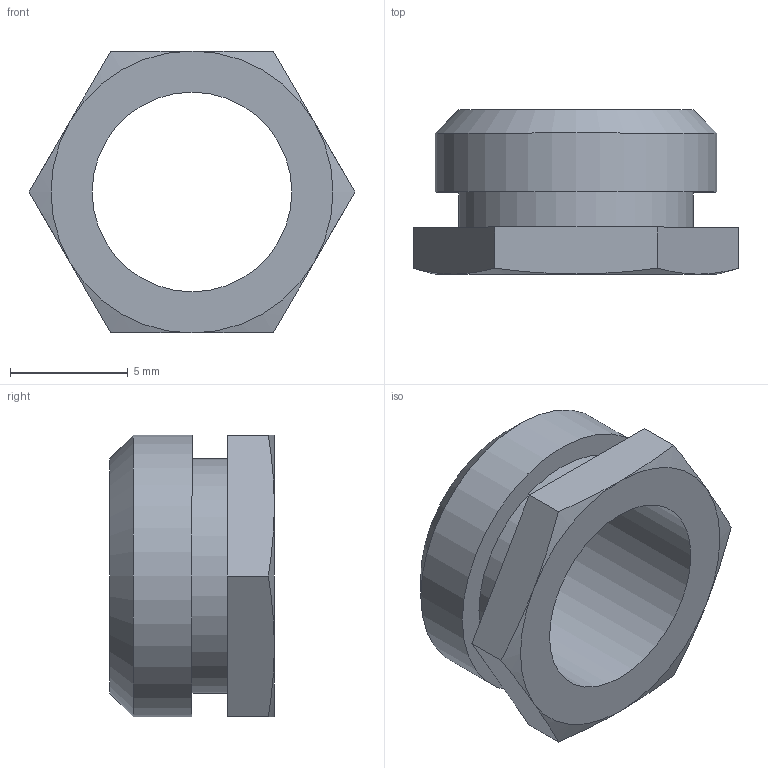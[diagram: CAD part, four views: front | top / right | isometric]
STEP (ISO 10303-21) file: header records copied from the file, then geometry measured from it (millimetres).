
FILE_DESCRIPTION(('STEP AP203'), '1');
FILE_NAME('Âòóëêà íàæèìíàÿ _ À.005', '', ('UNSPECIFIED'), ('UNSPECIFIED'), 'C3D Converter', 'C3D Toolkit', '');
FILE_SCHEMA(('CONFIG_CONTROL_DESIGN'));
Length unit declared in the file: millimetre
Products named in the file (1): А.005
Bounding box: 13.86 x 7 x 12 mm (x, y, z)
Volume: 347.2 mm3; surface area: 627.7 mm2
Topology: 1 solids, 1 shells, 20 faces, 41 edges, 25 vertices
Faces by surface type: plane 10, cone 7, cylinder 3
Full cylindrical faces by diameter (mm): 8.5 x1, 10 x1, 12 x1
Entity records: 867 total; most frequent: CARTESIAN_POINT 273, DIRECTION 80, ORIENTED_EDGE 74, EDGE_CURVE 37, AXIS2_PLACEMENT_3D 34, EDGE_LOOP 28, VERTEX_POINT 25, COLOUR_RGB 21
